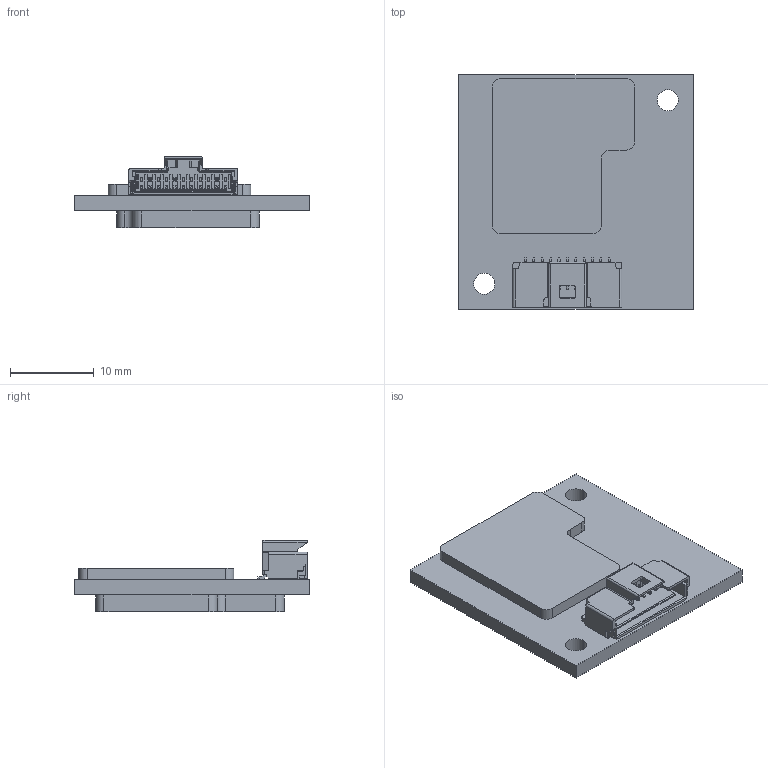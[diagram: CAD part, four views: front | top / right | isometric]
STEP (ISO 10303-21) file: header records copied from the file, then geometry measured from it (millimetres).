
FILE_DESCRIPTION (( 'STEP AP214' ), '1' );
FILE_NAME ('MODM447.STEP', '2024-12-23T09:07:03', ( '' ), ( '' ), 'SwSTEP 2.0', 'SolidWorks 2022', '' );
FILE_SCHEMA (( 'AUTOMOTIVE_DESIGN' ));
Length unit declared in the file: millimetre
Products named in the file (1): MODM447
Bounding box: 28 x 28 x 8.5 mm (x, y, z)
Volume: 2577.4 mm3; surface area: 2570.4 mm2
Topology: 2 solids, 2 shells, 996 faces, 2628 edges, 1650 vertices
Faces by surface type: plane 810, cylinder 94, cone 92
Entity records: 40793 total; most frequent: CARTESIAN_POINT 5468, ORIENTED_EDGE 5256, DIRECTION 4817, EDGE_CURVE 2628, LINE 2279, VECTOR 2279, VERTEX_POINT 1650, AXIS2_PLACEMENT_3D 1269
